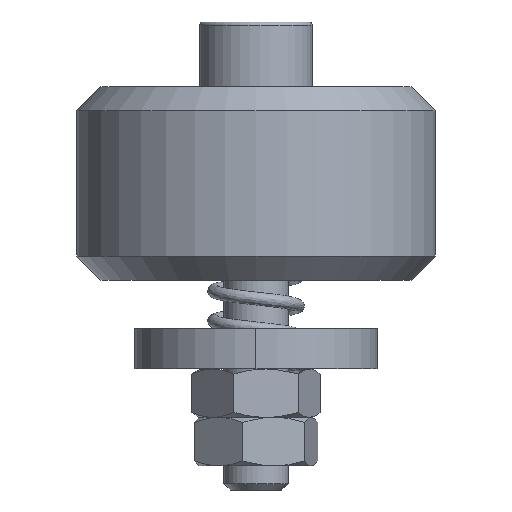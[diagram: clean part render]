
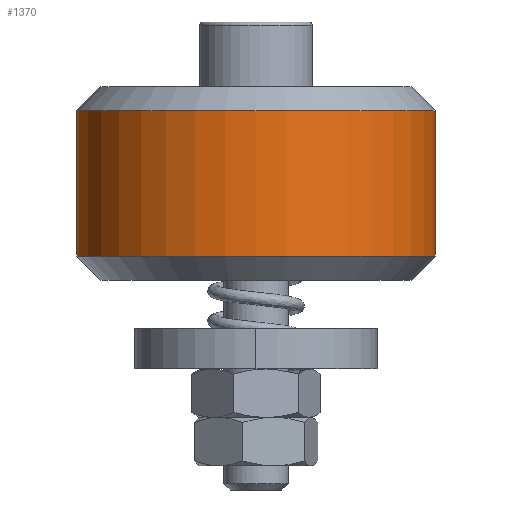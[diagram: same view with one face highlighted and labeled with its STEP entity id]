
A CAD part, front view. The second image highlights one B-rep face of the part: STEP entity #1370.
In plain terms, the highlighted cylindrical face has radius 11.11 mm (diameter 22.22 mm), a partial arc.
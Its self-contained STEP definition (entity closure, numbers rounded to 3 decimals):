
#160 = DIRECTION ( 'NONE',  ( 1., 0., 0. ) ) ;
#171 = CARTESIAN_POINT ( 'NONE',  ( -11.11, 0., -4.5 ) ) ;
#174 = CARTESIAN_POINT ( 'NONE',  ( 0., 0., 4.5 ) ) ;
#319 = ORIENTED_EDGE ( 'NONE', *, *, #322, .F. ) ;
#322 = EDGE_CURVE ( 'NONE', #1186, #915, #1425, .T. ) ;
#496 = DIRECTION ( 'NONE',  ( -1., 0., 0. ) ) ;
#635 = VERTEX_POINT ( 'NONE', #4523 ) ;
#838 = VECTOR ( 'NONE', #3830, 1000. ) ;
#915 = VERTEX_POINT ( 'NONE', #4601 ) ;
#1024 = AXIS2_PLACEMENT_3D ( 'NONE', #174, #1446, #496 ) ;
#1046 = VECTOR ( 'NONE', #3144, 1000. ) ;
#1186 = VERTEX_POINT ( 'NONE', #171 ) ;
#1370 = ADVANCED_FACE ( 'NONE', ( #2742 ), #1496, .T. ) ;
#1425 = LINE ( 'NONE', #2635, #1046 ) ;
#1446 = DIRECTION ( 'NONE',  ( 0., 0., -1. ) ) ;
#1460 = AXIS2_PLACEMENT_3D ( 'NONE', #1886, #4006, #160 ) ;
#1496 = CYLINDRICAL_SURFACE ( 'NONE', #3187, 11.11 ) ;
#1596 = ORIENTED_EDGE ( 'NONE', *, *, #3060, .T. ) ;
#1886 = CARTESIAN_POINT ( 'NONE',  ( 0., 0., -4.5 ) ) ;
#2633 = LINE ( 'NONE', #5087, #838 ) ;
#2635 = CARTESIAN_POINT ( 'NONE',  ( -11.11, 0., 6. ) ) ;
#2729 = CIRCLE ( 'NONE', #1024, 11.11 ) ;
#2742 = FACE_OUTER_BOUND ( 'NONE', #3789, .T. ) ;
#2777 = EDGE_CURVE ( 'NONE', #635, #915, #2729, .T. ) ;
#2823 = DIRECTION ( 'NONE',  ( 1., 0., 0. ) ) ;
#3060 = EDGE_CURVE ( 'NONE', #1186, #3856, #3900, .T. ) ;
#3144 = DIRECTION ( 'NONE',  ( 0., 0., 1. ) ) ;
#3187 = AXIS2_PLACEMENT_3D ( 'NONE', #4155, #4127, #2823 ) ;
#3789 = EDGE_LOOP ( 'NONE', ( #319, #1596, #3818, #3917 ) ) ;
#3818 = ORIENTED_EDGE ( 'NONE', *, *, #3835, .T. ) ;
#3830 = DIRECTION ( 'NONE',  ( 0., 0., 1. ) ) ;
#3835 = EDGE_CURVE ( 'NONE', #3856, #635, #2633, .T. ) ;
#3856 = VERTEX_POINT ( 'NONE', #4694 ) ;
#3900 = CIRCLE ( 'NONE', #1460, 11.11 ) ;
#3917 = ORIENTED_EDGE ( 'NONE', *, *, #2777, .T. ) ;
#4006 = DIRECTION ( 'NONE',  ( 0., 0., 1. ) ) ;
#4127 = DIRECTION ( 'NONE',  ( 0., 0., 1. ) ) ;
#4155 = CARTESIAN_POINT ( 'NONE',  ( 0., 0., 6. ) ) ;
#4523 = CARTESIAN_POINT ( 'NONE',  ( 11.11, 0., 4.5 ) ) ;
#4601 = CARTESIAN_POINT ( 'NONE',  ( -11.11, 0., 4.5 ) ) ;
#4694 = CARTESIAN_POINT ( 'NONE',  ( 11.11, 0., -4.5 ) ) ;
#5087 = CARTESIAN_POINT ( 'NONE',  ( 11.11, 0., 6. ) ) ;
